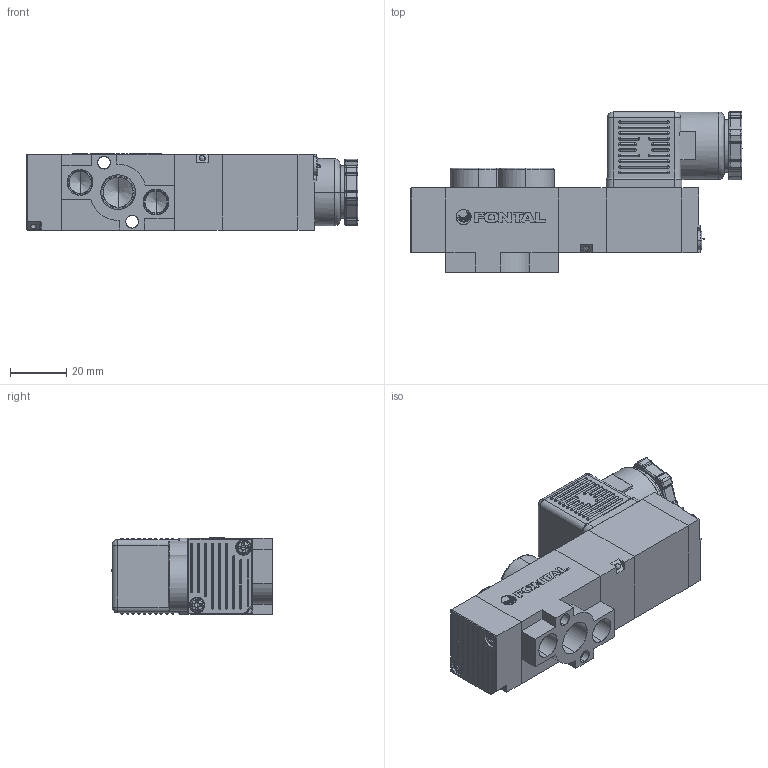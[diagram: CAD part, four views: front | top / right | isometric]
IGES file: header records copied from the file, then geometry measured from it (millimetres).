
Start section: SolidWorks IGES file using analytic representation for surfaces
Global section: file name: D:\Custom\3D繪製\PC\RC06\RCS2406-02-#C##.IGS,1; native system: 5HSolidWorks 2014; preprocessor: SolidWorks 2014; author: Chieh_Lu; date: 150803.214606; units: millimetre
Bounding box: 118.1 x 57.14 x 27.15 mm (x, y, z)
Surface area: 30452.7 mm2 (no closed solid volume)
Topology: 0 solids, 0 shells, 912 faces, 7799 edges, 7610 vertices
Faces by surface type: revolution 526, bspline 386
